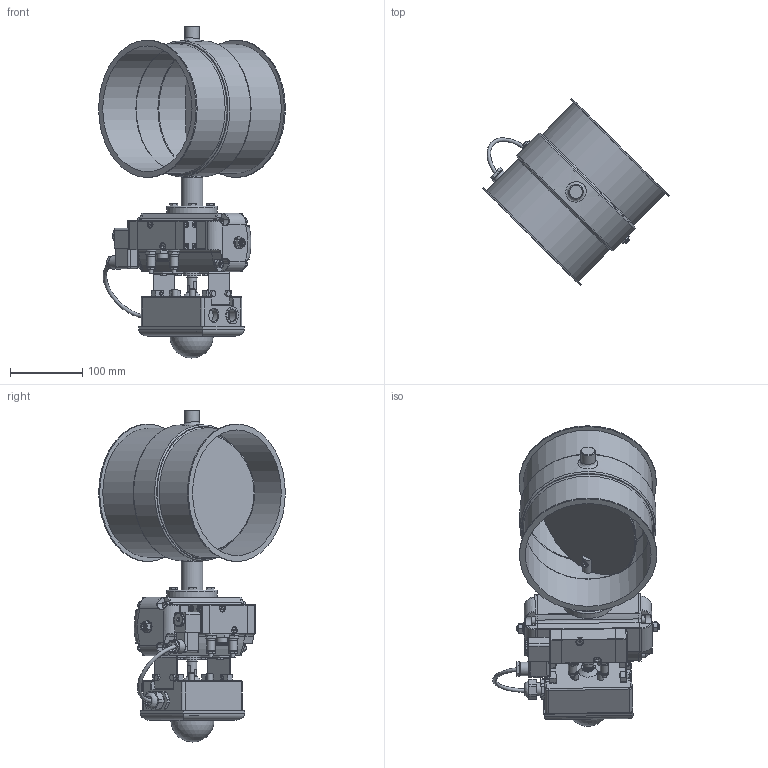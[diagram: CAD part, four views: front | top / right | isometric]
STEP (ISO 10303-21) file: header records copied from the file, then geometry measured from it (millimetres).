
FILE_DESCRIPTION((''),'2;1');
FILE_NAME('U:\Wolfgang\Marcel-3D\fertig\Kapitel 8\1721212.stp','2011-05-03T15:00:23',('TK1'),(''),'Autodesk Inventor 2010','Autodesk Inventor 2010','');
FILE_SCHEMA(('AUTOMOTIVE_DESIGN { 1 0 10303 214 1 1 1 1 }'));
Length unit declared in the file: millimetre
Products named in the file (41): 1721212; Bolzen D15; Scheibe170b; DIN 6912 M6 x 16; 1721210-1; Antrieb Flowserve; BuchseD15 70-50; Pneumatischer SchwenkantriebS63D-2; Body; roter Verschluss; A1 Schwenkantrieb; Body S063D; End Cap L; End Cap R; DIN EN ISO 4762 M6 x 12; DIN EN ISO 4018 M5x10; DIN 916 M8  x  40; DIN 555 - ersetzt durch DIN EN 24034 M8; DIN 125-1 A A 8,4; DIN 125-1 A A 13; A1 Ventileinheit-2; Ventil1; Ventil1a; Ventil1b; Ventil1a_1; Ventil1b_1; ISO 7046-1 Z M4 x 25 - 4.8 - Z; Ventil1c; Ventil1d; ISO 7047 (H) M3x8 - 4.8 - H; DIN 7984 M6 x 40; DIN EN ISO 7042 M8; Ventil1e; Ventil1f; DIN EN 24766 M6 x 30; DIN 439-2 - ersetzt durch DIN EN 24035/28675 M6; entlüftung; Halterung; Deckel2; Schlauch 1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
Assembly tree (79 placements, depth 5):
  1721212
    Bolzen D15  x2
    Scheibe170b
    DIN 6912 M6 x 16  x2
    1721210-1
    Antrieb Flowserve
      BuchseD15 70-50
      Pneumatischer SchwenkantriebS63D-2
        Body
        roter Verschluss
        A1 Schwenkantrieb
          Body S063D
          End Cap L
          End Cap R
          DIN EN ISO 4762 M6 x 12  x8
          DIN EN ISO 4018 M5x10  x4
          DIN 916 M8  x  40  x2
          DIN 555 - ersetzt durch DIN EN 24034 M8  x2
          DIN 125-1 A A 8,4  x2
          DIN 125-1 A A 13  x2
        A1 Ventileinheit-2
          Ventil1
          Ventil1a
          Ventil1b
          Ventil1a_1
          Ventil1b_1
          ISO 7046-1 Z M4 x 25 - 4.8 - Z  x8
          Ventil1c
          Ventil1d
          ISO 7047 (H) M3x8 - 4.8 - H
          DIN 7984 M6 x 40  x2
          DIN EN ISO 7042 M8  x2
          DIN 125-1 A A 8,4  x2
          Ventil1e  x2
          Ventil1f  x2
          DIN EN 24766 M6 x 30  x2
          DIN 439-2 - ersetzt durch DIN EN 24035/28675 M6  x2
          entlüftung
        Halterung  x2
        DIN EN ISO 4018 M5x10  x4
        Deckel2
        Schlauch 1
      DIN EN ISO 4018 M6x25  x4
Bounding box: 258.13 x 258.06 x 459 mm (x, y, z)
Volume: 1909391.5 mm3; surface area: 599481.3 mm2
Topology: 78 solids, 79 shells, 1695 faces, 3994 edges, 2535 vertices
Faces by surface type: plane 824, cylinder 334, cone 302, bspline 150, torus 77, sphere 8
Full cylindrical faces by diameter (mm): 2.5 x1, 3 x3, 3.242 x8, 3.571 x8, 4 x8, 4.917 x4, 5 x10, 5.5 x1, 6 x24, 6.647 x1, 8 x6, 8.4 x12, 10 x14, 11.63 x6, 11.9 x2, 12 x1, 12.5 x1, 13 x7, 14 x3, 15 x7, 15.5 x1, 15.918 x1, 16 x5, 16.918 x1, 17 x3, 17.79 x2, 18 x3, 19 x2, 20 x1, 22 x1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
Entity records: 31135 total; most frequent: CARTESIAN_POINT 8637, DIRECTION 4519, ORIENTED_EDGE 3926, EDGE_CURVE 1963, AXIS2_PLACEMENT_3D 1794, EDGE_LOOP 1398, VERTEX_POINT 1384, FACE_OUTER_BOUND 975
